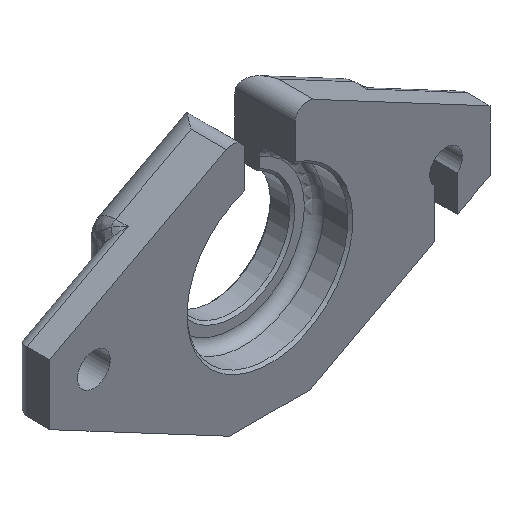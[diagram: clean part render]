
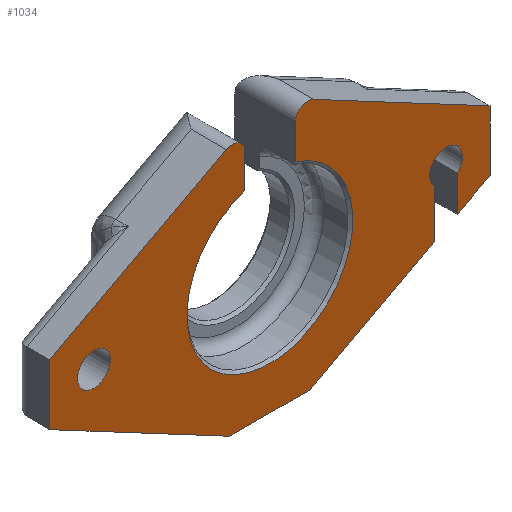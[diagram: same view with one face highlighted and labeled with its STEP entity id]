
A CAD part, isometric view. The second image highlights one B-rep face of the part: STEP entity #1034.
In plain terms, the highlighted planar face has unit normal (0, -1, 0).
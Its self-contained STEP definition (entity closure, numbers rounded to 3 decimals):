
#30=FACE_BOUND('',#348,.T.);
#42=PLANE('',#1142);
#80=LINE('',#1781,#151);
#92=LINE('',#1826,#163);
#95=LINE('',#1833,#166);
#110=LINE('',#2164,#181);
#114=LINE('',#2191,#185);
#119=LINE('',#2207,#190);
#122=LINE('',#2212,#193);
#123=LINE('',#2214,#194);
#125=LINE('',#2221,#196);
#126=LINE('',#2225,#197);
#127=LINE('',#2227,#198);
#128=LINE('',#2229,#199);
#151=VECTOR('',#1235,10.);
#163=VECTOR('',#1261,10.);
#166=VECTOR('',#1272,10.);
#181=VECTOR('',#1337,10.);
#185=VECTOR('',#1351,10.);
#190=VECTOR('',#1370,10.);
#193=VECTOR('',#1375,10.);
#194=VECTOR('',#1378,10.);
#196=VECTOR('',#1386,10.);
#197=VECTOR('',#1389,10.);
#198=VECTOR('',#1392,10.);
#199=VECTOR('',#1393,10.);
#283=FACE_OUTER_BOUND('',#347,.T.);
#347=EDGE_LOOP('',(#879,#880,#881,#882,#883,#884,#885,#886,#887,#888,#889,
#890,#891,#892,#893,#894));
#348=EDGE_LOOP('',(#895));
#409=CIRCLE('',#1141,5.);
#410=CIRCLE('',#1143,33.);
#411=CIRCLE('',#1144,5.);
#412=CIRCLE('',#1145,6.5);
#413=CIRCLE('',#1146,6.5);
#444=VERTEX_POINT('',#1778);
#445=VERTEX_POINT('',#1780);
#456=VERTEX_POINT('',#1823);
#457=VERTEX_POINT('',#1825);
#483=VERTEX_POINT('',#2161);
#484=VERTEX_POINT('',#2163);
#487=VERTEX_POINT('',#2188);
#488=VERTEX_POINT('',#2190);
#491=VERTEX_POINT('',#2204);
#492=VERTEX_POINT('',#2206);
#493=VERTEX_POINT('',#2210);
#494=VERTEX_POINT('',#2216);
#495=VERTEX_POINT('',#2220);
#496=VERTEX_POINT('',#2222);
#497=VERTEX_POINT('',#2224);
#498=VERTEX_POINT('',#2228);
#499=VERTEX_POINT('',#2231);
#550=EDGE_CURVE('',#445,#444,#80,.T.);
#566=EDGE_CURVE('',#456,#457,#92,.T.);
#570=EDGE_CURVE('',#445,#456,#95,.T.);
#611=EDGE_CURVE('',#484,#483,#110,.T.);
#618=EDGE_CURVE('',#487,#488,#114,.T.);
#626=EDGE_CURVE('',#492,#491,#119,.T.);
#629=EDGE_CURVE('',#493,#491,#122,.T.);
#630=EDGE_CURVE('',#493,#484,#123,.T.);
#631=EDGE_CURVE('',#494,#483,#409,.T.);
#633=EDGE_CURVE('',#494,#495,#125,.T.);
#634=EDGE_CURVE('',#496,#495,#410,.T.);
#635=EDGE_CURVE('',#497,#496,#126,.T.);
#636=EDGE_CURVE('',#457,#497,#411,.T.);
#637=EDGE_CURVE('',#488,#444,#127,.T.);
#638=EDGE_CURVE('',#498,#487,#128,.T.);
#639=EDGE_CURVE('',#498,#492,#412,.T.);
#640=EDGE_CURVE('',#499,#499,#413,.T.);
#879=ORIENTED_EDGE('',*,*,#631,.F.);
#880=ORIENTED_EDGE('',*,*,#633,.T.);
#881=ORIENTED_EDGE('',*,*,#634,.F.);
#882=ORIENTED_EDGE('',*,*,#635,.F.);
#883=ORIENTED_EDGE('',*,*,#636,.F.);
#884=ORIENTED_EDGE('',*,*,#566,.F.);
#885=ORIENTED_EDGE('',*,*,#570,.F.);
#886=ORIENTED_EDGE('',*,*,#550,.T.);
#887=ORIENTED_EDGE('',*,*,#637,.F.);
#888=ORIENTED_EDGE('',*,*,#618,.F.);
#889=ORIENTED_EDGE('',*,*,#638,.F.);
#890=ORIENTED_EDGE('',*,*,#639,.T.);
#891=ORIENTED_EDGE('',*,*,#626,.T.);
#892=ORIENTED_EDGE('',*,*,#629,.F.);
#893=ORIENTED_EDGE('',*,*,#630,.T.);
#894=ORIENTED_EDGE('',*,*,#611,.T.);
#895=ORIENTED_EDGE('',*,*,#640,.F.);
#1034=ADVANCED_FACE('',(#283,#30),#42,.F.);
#1141=AXIS2_PLACEMENT_3D('',#2217,#1381,#1382);
#1142=AXIS2_PLACEMENT_3D('',#2219,#1384,#1385);
#1143=AXIS2_PLACEMENT_3D('',#2223,#1387,#1388);
#1144=AXIS2_PLACEMENT_3D('',#2226,#1390,#1391);
#1145=AXIS2_PLACEMENT_3D('',#2230,#1394,#1395);
#1146=AXIS2_PLACEMENT_3D('',#2232,#1396,#1397);
#1235=DIRECTION('',(0.883,0.,-0.469));
#1261=DIRECTION('',(0.883,0.,0.469));
#1272=DIRECTION('',(0.,0.,1.));
#1337=DIRECTION('',(-0.883,0.,0.469));
#1351=DIRECTION('',(-0.883,0.,-0.469));
#1370=DIRECTION('',(0.,0.,-1.));
#1375=DIRECTION('',(-0.883,0.,-0.469));
#1378=DIRECTION('',(0.,0.,1.));
#1381=DIRECTION('center_axis',(0.,1.,0.));
#1382=DIRECTION('ref_axis',(-1.,0.,0.));
#1384=DIRECTION('center_axis',(0.,1.,0.));
#1385=DIRECTION('ref_axis',(1.,0.,0.));
#1386=DIRECTION('',(0.,0.,-1.));
#1387=DIRECTION('center_axis',(0.,-1.,0.));
#1388=DIRECTION('ref_axis',(1.,0.,0.));
#1389=DIRECTION('',(0.,0.,-1.));
#1390=DIRECTION('center_axis',(0.,1.,0.));
#1391=DIRECTION('ref_axis',(-0.469,0.,0.883));
#1392=DIRECTION('',(-1.,0.,0.));
#1393=DIRECTION('',(0.,0.,-1.));
#1394=DIRECTION('center_axis',(0.,1.,0.));
#1395=DIRECTION('ref_axis',(1.,0.,0.));
#1396=DIRECTION('center_axis',(0.,-1.,0.));
#1397=DIRECTION('ref_axis',(1.,0.,0.));
#1778=CARTESIAN_POINT('',(-16.032,0.,-50.));
#1780=CARTESIAN_POINT('',(-87.5,0.,-12.));
#1781=CARTESIAN_POINT('',(-87.5,0.,-12.));
#1823=CARTESIAN_POINT('',(-87.5,0.,12.));
#1825=CARTESIAN_POINT('',(-17.347,0.,49.301));
#1826=CARTESIAN_POINT('',(-87.5,0.,12.));
#1833=CARTESIAN_POINT('',(-87.5,0.,0.));
#2161=CARTESIAN_POINT('',(17.347,0.,49.301));
#2163=CARTESIAN_POINT('',(87.5,0.,12.));
#2164=CARTESIAN_POINT('',(87.5,0.,12.));
#2188=CARTESIAN_POINT('',(65.5,0.,-23.698));
#2190=CARTESIAN_POINT('',(16.032,0.,-50.));
#2191=CARTESIAN_POINT('',(87.5,0.,-12.));
#2204=CARTESIAN_POINT('',(74.5,0.,-18.912));
#2206=CARTESIAN_POINT('',(74.5,0.,-4.69));
#2207=CARTESIAN_POINT('',(74.5,0.,0.));
#2210=CARTESIAN_POINT('',(87.5,0.,-12.));
#2212=CARTESIAN_POINT('',(87.5,0.,-12.));
#2214=CARTESIAN_POINT('',(87.5,0.,0.));
#2216=CARTESIAN_POINT('',(10.,0.,44.886));
#2217=CARTESIAN_POINT('Origin',(15.,0.,44.886));
#2219=CARTESIAN_POINT('Origin',(0.,0.,0.));
#2220=CARTESIAN_POINT('',(10.,0.,31.448));
#2221=CARTESIAN_POINT('',(10.,0.,50.));
#2222=CARTESIAN_POINT('',(-10.,0.,31.448));
#2223=CARTESIAN_POINT('Origin',(0.,0.,0.));
#2224=CARTESIAN_POINT('',(-10.,0.,44.886));
#2225=CARTESIAN_POINT('',(-10.,0.,50.));
#2226=CARTESIAN_POINT('Origin',(-15.,0.,44.886));
#2227=CARTESIAN_POINT('',(16.032,0.,-50.));
#2228=CARTESIAN_POINT('',(65.5,0.,-4.69));
#2229=CARTESIAN_POINT('',(65.5,0.,0.));
#2230=CARTESIAN_POINT('Origin',(70.,0.,0.));
#2231=CARTESIAN_POINT('',(-76.5,0.,0.));
#2232=CARTESIAN_POINT('Origin',(-70.,0.,0.));
